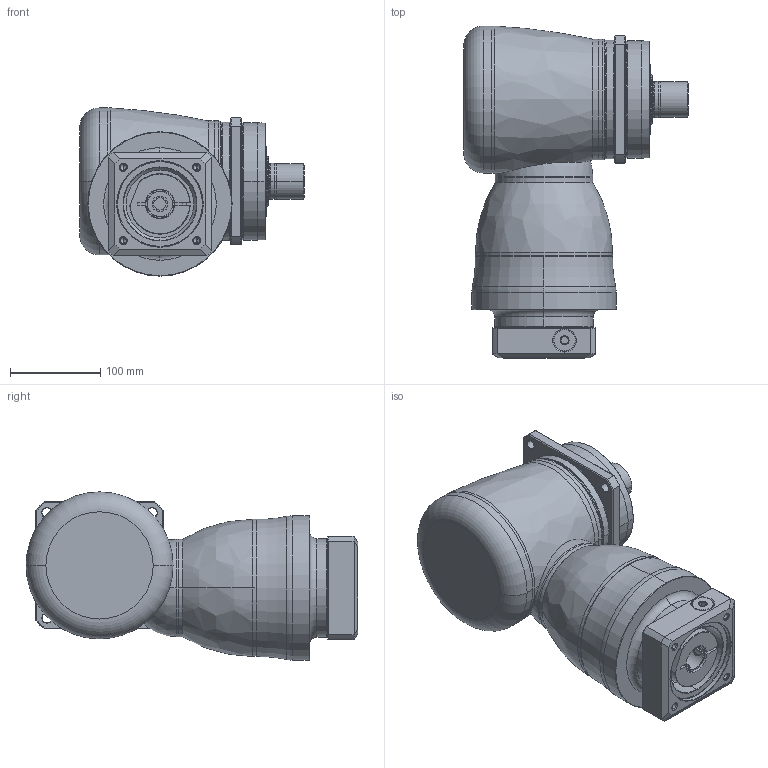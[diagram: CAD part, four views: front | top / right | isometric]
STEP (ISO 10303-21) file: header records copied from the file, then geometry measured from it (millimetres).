
FILE_DESCRIPTION((''),'2;1');
FILE_NAME('KF140_S3_2ST_28-P0409600101_ASM','2016-07-07T',('d01943'),(''),'PRO/ENGINEER BY PARAMETRIC TECHNOLOGY CORPORATION, 2008410','PRO/ENGINEER BY PARAMETRIC TECHNOLOGY CORPORATION, 2008410','');
FILE_SCHEMA(('CONFIG_CONTROL_DESIGN'));
Length unit declared in the file: millimetre
Products named in the file (11): P1008500002; P1804500001; P0915502001; P1315500001; P1007500001; P1317500201; P0409600101; P0503600010; P0912402001; 21711418017; KF140_S3_2ST_28-P0409600101_ASM
Assembly tree (10 placements, depth 2):
  KF140_S3_2ST_28-P0409600101_ASM
    P1008500002
    P1804500001
    P0915502001
    P1315500001
    P1007500001
    P1317500201
    P0409600101
    P0503600010
    P0912402001
    21711418017
Bounding box: 249 x 368 x 186.5 mm (x, y, z)
Volume: 6364702.6 mm3; surface area: 501761.9 mm2
Topology: 11 solids, 11 shells, 449 faces, 996 edges, 585 vertices
Faces by surface type: cylinder 146, cone 122, plane 94, torus 66, bspline 19, sphere 2
Entity records: 17381 total; most frequent: CARTESIAN_POINT 7212, DIRECTION 2257, ORIENTED_EDGE 1952, EDGE_CURVE 976, AXIS2_PLACEMENT_3D 957, VERTEX_POINT 585, EDGE_LOOP 509, CIRCLE 506
